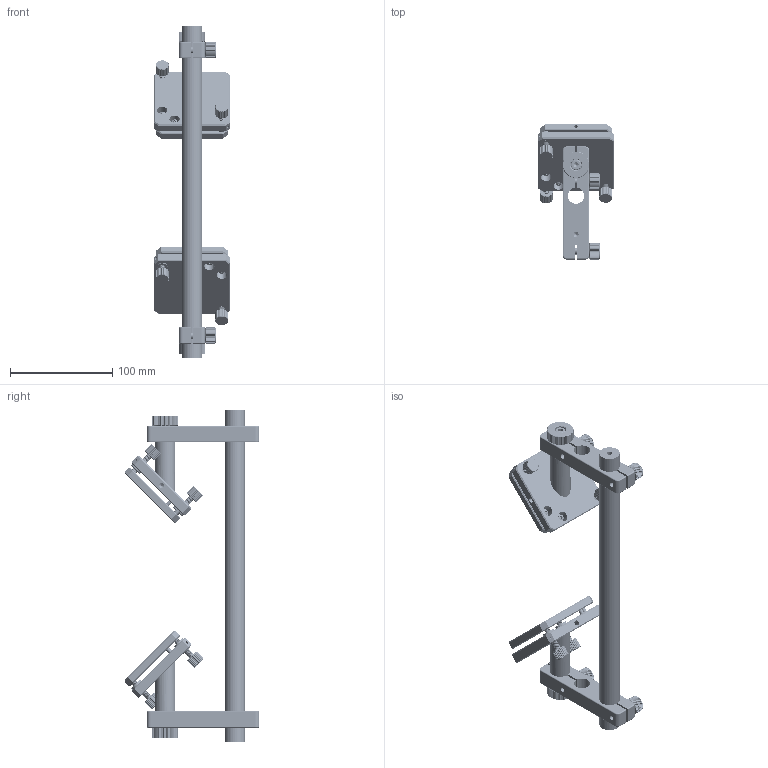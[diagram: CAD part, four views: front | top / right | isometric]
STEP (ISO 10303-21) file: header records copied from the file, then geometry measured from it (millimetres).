
FILE_DESCRIPTION (( 'STEP AP203' ), '1' );
FILE_NAME ('HGMMS350 嫖旰蛌殏殤.STEP', '2021-01-25T01:47:03', ( 'yunke' ), ( '' ), 'SwSTEP 2.0', 'SolidWorks 2020', '' );
FILE_SCHEMA (( 'CONFIG_CONTROL_DESIGN' ));
Length unit declared in the file: millimetre
Products named in the file (23): M6x3-26-10 幗豪忒謫; 蹟恇萵耀倰; 牉挴蹟恇裝; 噩え嘐隅翐; HGMP2324 盓傅裝; cross recessed pan head screws gb_GB_CROSS_SCREWS_TYPE1 M3X8-8  H type-N; HGMMS350 嫖旰蛌殏殤; hexagon socket head cap screws gb_GB_FASTENER_SCREWS_HSHCS M6X10-N; HGMMS350-2 光束转折架45°杆; hexagon socket head cap screws gb_GB_FASTENER_SCREWS_HSHCS M6X25-N; HGMMS350-3光束转折架固定板; 階紩; HGMMS350-1 光束转折架镜架安装板; 唅聽; 牉挴肣蹟譫; hexagon socket head cap screws gb_GB_FASTENER_SCREWS_HSHCS M4X8-N; 鼠蚚蟀諉璃-肣秶; HGMMS350-4 光束转折架活动板; hexagon socket set screws with cup point gb_GB_SOCKET_SET_TYPE4 M3X3-N; M6x3-16-10 忒聽
Assembly tree (63 placements, depth 3):
  HGMMS350 嫖旰蛌殏殤
    HGMP2324 盓傅裝
    HGMMS350-1 光束转折架镜架安装板  x2
    M6x3-16-10 忒聽  x4
    hexagon socket head cap screws gb_GB_FASTENER_SCREWS_HSHCS M6X25-N  x4
    HGMMS350-2 光束转折架45°杆  x2
    M6x3-26-10 幗豪忒謫  x2
    hexagon socket head cap screws gb_GB_FASTENER_SCREWS_HSHCS M6X10-N  x2
    HGMMS350-3光束转折架固定板  x2
    hexagon socket head cap screws gb_GB_FASTENER_SCREWS_HSHCS M4X8-N  x2
    HGMMS350-4 光束转折架活动板  x2
    噩え嘐隅翐  x4
    鼠蚚蟀諉璃-肣秶  x4
    cross recessed pan head screws gb_GB_CROSS_SCREWS_TYPE1 M3X8-8  H type-N  x8
    蹟恇萵耀倰
      牉挴蹟恇裝
      牉挴肣蹟譫
      唅聽
      階紩
    蹟恇萵耀倰
      牉挴蹟恇裝
      牉挴肣蹟譫
      唅聽
      階紩
    蹟恇萵耀倰
      牉挴蹟恇裝
      牉挴肣蹟譫
      唅聽
      階紩
    蹟恇萵耀倰
      牉挴蹟恇裝
      牉挴肣蹟譫
      唅聽
      階紩
    hexagon socket set screws with cup point gb_GB_SOCKET_SET_TYPE4 M3X3-N  x4
Bounding box: 74 x 131.6 x 324 mm (x, y, z)
Volume: 369649.9 mm3; surface area: 132172.3 mm2
Topology: 59 solids, 59 shells, 3898 faces, 10138 edges, 6342 vertices
Faces by surface type: plane 1666, cylinder 1590, cone 570, torus 32, sphere 28, bspline 12
Entity records: 49389 total; most frequent: CARTESIAN_POINT 18181, ORIENTED_EDGE 6122, DIRECTION 5467, EDGE_CURVE 3061, AXIS2_PLACEMENT_3D 2160, VERTEX_POINT 1896, EDGE_LOOP 1289, ADVANCED_FACE 1225
